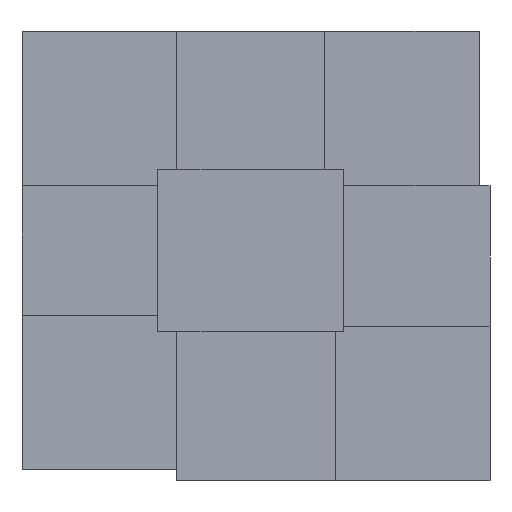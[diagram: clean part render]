
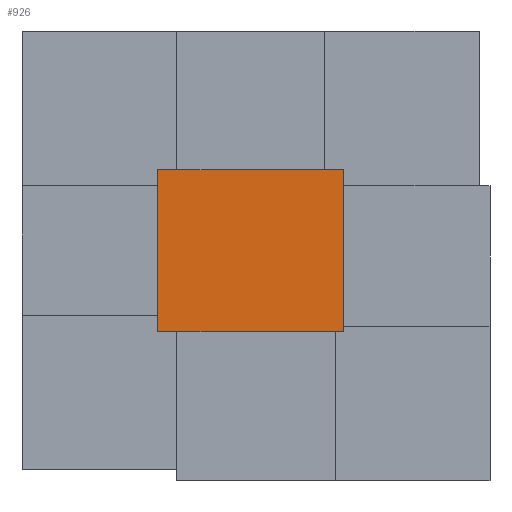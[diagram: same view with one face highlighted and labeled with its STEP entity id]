
A CAD part, left-side view. The second image highlights one B-rep face of the part: STEP entity #926.
In plain terms, the highlighted planar face has unit normal (-1, 0, 0).
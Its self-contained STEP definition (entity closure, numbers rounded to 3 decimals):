
#808=CARTESIAN_POINT('Line Origine',(0.,0.,52.5)) ;
#812=CARTESIAN_POINT('Vertex',(0.,0.,0.)) ;
#814=CARTESIAN_POINT('Vertex',(0.,0.,105.)) ;
#883=CARTESIAN_POINT('Vertex',(0.,120.,0.)) ;
#886=CARTESIAN_POINT('Line Origine',(0.,120.,52.5)) ;
#890=CARTESIAN_POINT('Vertex',(0.,120.,105.)) ;
#905=CARTESIAN_POINT('Axis2P3D Location',(0.,120.,0.)) ;
#910=CARTESIAN_POINT('Line Origine',(0.,60.,0.)) ;
#915=CARTESIAN_POINT('Line Origine',(0.,60.,105.)) ;
#809=DIRECTION('Vector Direction',(0.,0.,1.)) ;
#887=DIRECTION('Vector Direction',(0.,0.,1.)) ;
#906=DIRECTION('Axis2P3D Direction',(-1.,0.,0.)) ;
#907=DIRECTION('Axis2P3D XDirection',(0.,-1.,0.)) ;
#911=DIRECTION('Vector Direction',(0.,-1.,0.)) ;
#916=DIRECTION('Vector Direction',(0.,-1.,0.)) ;
#908=AXIS2_PLACEMENT_3D('Plane Axis2P3D',#905,#906,#907) ;
#921=ORIENTED_EDGE('',*,*,#892,.F.) ;
#922=ORIENTED_EDGE('',*,*,#914,.T.) ;
#923=ORIENTED_EDGE('',*,*,#816,.T.) ;
#924=ORIENTED_EDGE('',*,*,#919,.F.) ;
#810=VECTOR('Line Direction',#809,1.) ;
#888=VECTOR('Line Direction',#887,1.) ;
#912=VECTOR('Line Direction',#911,1.) ;
#917=VECTOR('Line Direction',#916,1.) ;
#926=ADVANCED_FACE('Body.2-molde-superior',(#925),#909,.T.) ;
#816=EDGE_CURVE('',#813,#815,#811,.T.) ;
#892=EDGE_CURVE('',#884,#891,#889,.T.) ;
#914=EDGE_CURVE('',#884,#813,#913,.T.) ;
#919=EDGE_CURVE('',#891,#815,#918,.T.) ;
#920=EDGE_LOOP('',(#921,#922,#923,#924)) ;
#925=FACE_OUTER_BOUND('',#920,.T.) ;
#811=LINE('Line',#808,#810) ;
#889=LINE('Line',#886,#888) ;
#913=LINE('Line',#910,#912) ;
#918=LINE('Line',#915,#917) ;
#909=PLANE('',#908) ;
#813=VERTEX_POINT('',#812) ;
#815=VERTEX_POINT('',#814) ;
#884=VERTEX_POINT('',#883) ;
#891=VERTEX_POINT('',#890) ;
